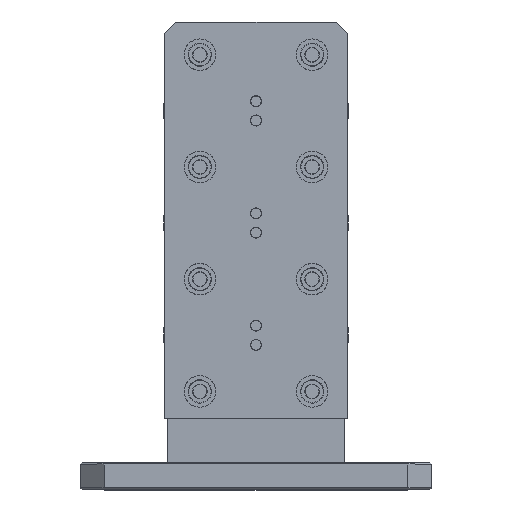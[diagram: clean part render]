
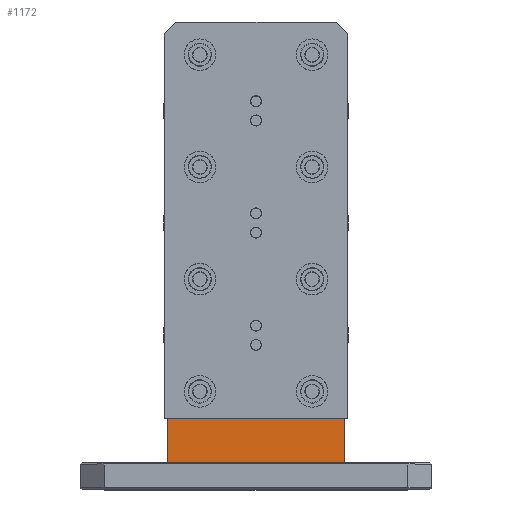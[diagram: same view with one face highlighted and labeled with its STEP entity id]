
A CAD part, top view. The second image highlights one B-rep face of the part: STEP entity #1172.
In plain terms, the highlighted planar face has unit normal (0, 0, 1).
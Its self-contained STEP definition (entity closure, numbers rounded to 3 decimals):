
#1002 = CARTESIAN_POINT ( 'NONE',  ( -75.968, 0., 47.968 ) ) ;
#1172 = ADVANCED_FACE ( 'NONE', ( #14798 ), #11993, .T. ) ;
#1776 = ORIENTED_EDGE ( 'NONE', *, *, #8097, .F. ) ;
#2558 = VERTEX_POINT ( 'NONE', #31141 ) ;
#4170 = ORIENTED_EDGE ( 'NONE', *, *, #6276, .T. ) ;
#4190 = CARTESIAN_POINT ( 'NONE',  ( 75.968, 0., 47.968 ) ) ;
#4246 = CARTESIAN_POINT ( 'NONE',  ( -75.968, 38.1, 47.968 ) ) ;
#6154 = VERTEX_POINT ( 'NONE', #1002 ) ;
#6276 = EDGE_CURVE ( 'NONE', #34684, #27045, #19704, .T. ) ;
#6855 = DIRECTION ( 'NONE',  ( 0., -1., 0. ) ) ;
#8097 = EDGE_CURVE ( 'NONE', #2558, #6154, #24470, .T. ) ;
#9448 = CARTESIAN_POINT ( 'NONE',  ( 75.968, 38.1, 47.968 ) ) ;
#10418 = VECTOR ( 'NONE', #14319, 1000. ) ;
#11993 = PLANE ( 'NONE',  #17805 ) ;
#14319 = DIRECTION ( 'NONE',  ( -1., 0., 0. ) ) ;
#14330 = DIRECTION ( 'NONE',  ( 0., -1., 0. ) ) ;
#14798 = FACE_OUTER_BOUND ( 'NONE', #15068, .T. ) ;
#15068 = EDGE_LOOP ( 'NONE', ( #1776, #16904, #4170, #22314 ) ) ;
#15171 = DIRECTION ( 'NONE',  ( 0., 0., 1. ) ) ;
#16904 = ORIENTED_EDGE ( 'NONE', *, *, #36859, .F. ) ;
#17805 = AXIS2_PLACEMENT_3D ( 'NONE', #26163, #15171, #35134 ) ;
#19244 = VECTOR ( 'NONE', #14330, 1000. ) ;
#19704 = LINE ( 'NONE', #31494, #10418 ) ;
#20265 = CARTESIAN_POINT ( 'NONE',  ( 75.968, 38.1, 47.968 ) ) ;
#22314 = ORIENTED_EDGE ( 'NONE', *, *, #34725, .T. ) ;
#24470 = LINE ( 'NONE', #4190, #35727 ) ;
#25504 = LINE ( 'NONE', #20265, #19244 ) ;
#26163 = CARTESIAN_POINT ( 'NONE',  ( 75.968, 38.1, 47.968 ) ) ;
#27045 = VERTEX_POINT ( 'NONE', #30152 ) ;
#27129 = DIRECTION ( 'NONE',  ( -1., 0., 0. ) ) ;
#27505 = VECTOR ( 'NONE', #6855, 1000. ) ;
#30152 = CARTESIAN_POINT ( 'NONE',  ( -75.968, 38.1, 47.968 ) ) ;
#31141 = CARTESIAN_POINT ( 'NONE',  ( 75.968, 0., 47.968 ) ) ;
#31494 = CARTESIAN_POINT ( 'NONE',  ( 75.968, 38.1, 47.968 ) ) ;
#32414 = LINE ( 'NONE', #4246, #27505 ) ;
#34684 = VERTEX_POINT ( 'NONE', #9448 ) ;
#34725 = EDGE_CURVE ( 'NONE', #27045, #6154, #32414, .T. ) ;
#35134 = DIRECTION ( 'NONE',  ( 1., 0., 0. ) ) ;
#35727 = VECTOR ( 'NONE', #27129, 1000. ) ;
#36859 = EDGE_CURVE ( 'NONE', #34684, #2558, #25504, .T. ) ;
